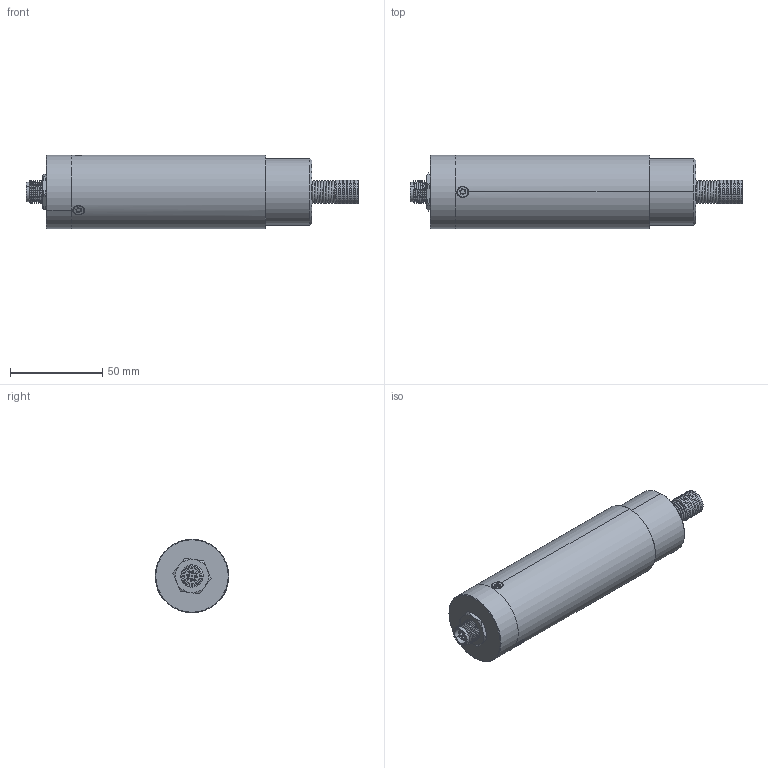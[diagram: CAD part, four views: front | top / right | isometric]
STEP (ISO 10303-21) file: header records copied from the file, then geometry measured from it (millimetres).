
FILE_DESCRIPTION (( 'STEP AP214' ), '1' );
FILE_NAME ('Pluto 6CA_TA.STEP', '2013-10-07T15:01:31', ( '' ), ( '' ), 'SwSTEP 2.0', 'SolidWorks 2013', '' );
FILE_SCHEMA (( 'AUTOMOTIVE_DESIGN' ));
Length unit declared in the file: millimetre
Products named in the file (1): Pluto 6CA_TA
Bounding box: 179.5 x 39.8 x 39.8 mm (x, y, z)
Volume: 117853.6 mm3; surface area: 57578.5 mm2
Topology: 18 solids, 18 shells, 583 faces, 1390 edges, 852 vertices
Faces by surface type: cylinder 258, plane 156, cone 74, torus 58, bspline 32, sphere 5
Entity records: 36333 total; most frequent: CARTESIAN_POINT 16523, DIRECTION 2851, ORIENTED_EDGE 2684, EDGE_CURVE 1342, AXIS2_PLACEMENT_3D 1168, VERTEX_POINT 843, EDGE_LOOP 669, CIRCLE 616
